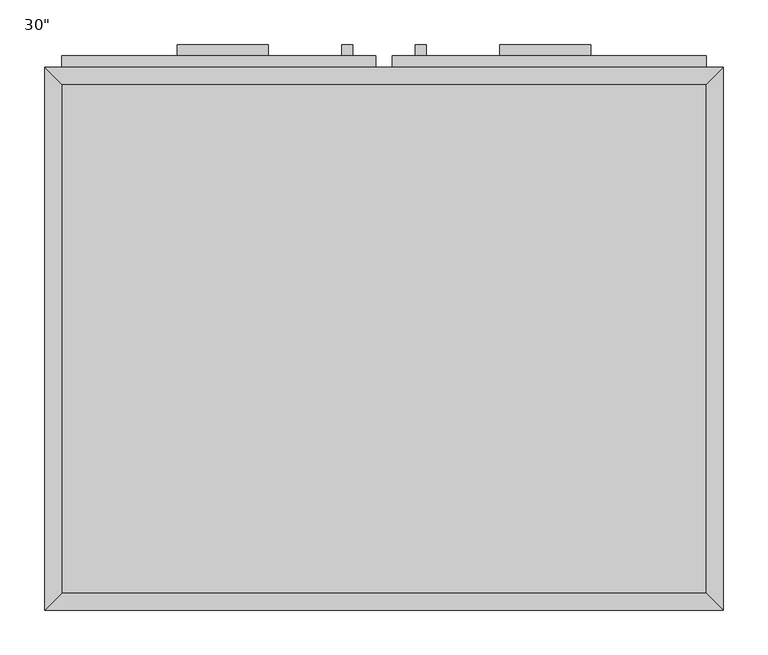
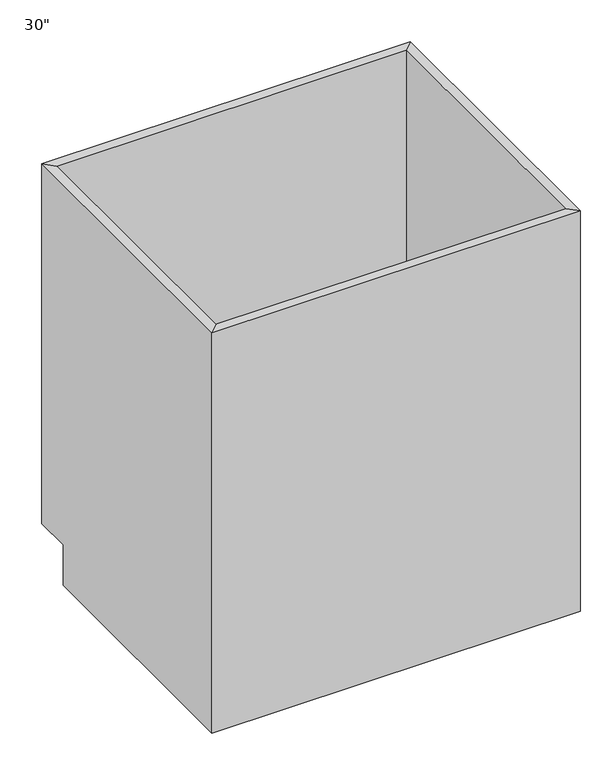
"""IFC4 building model written with IfcOpenShell, lengths in millimetres: furniture geometry."""

from ifc_helpers import new_model, si_unit, frame, origin, place, context, project, spatial, polyline, outline, extrude, faceted_brep, source, transform, mapped, element, save


def furniture_81c1c4d7(model_context):
    return source(origin(), model_context, "Body", "SolidModel", [
        faceted_brep([(380.6877049, 590.55, 876.3), (-343.2122951, 590.55, 876.3), (-343.2122951, 590.55, 88.9), (380.6877049, 590.55, 88.9), (399.7377049, 609.6, 876.3), (-362.2622951, 609.6, 876.3), (399.7377049, 609.6, 88.9), (-362.2622951, 609.6, 88.9), (-343.2122951, 19.05, 876.3), (-343.2122951, 19.05, 88.9), (-343.2122951, 533.4, 88.9), (-362.2622951, 0.0, 876.3), (-362.2622951, 533.4, 88.9), (-362.2622951, 533.4, 0.0), (-362.2622951, 0.0, 0.0), (380.6877049, 19.05, 876.3), (380.6877049, 19.05, 88.9), (399.7377049, 0.0, 876.3), (399.7377049, 0.0, 0.0), (380.6877049, 533.4, 88.9), (399.7377049, 533.4, 0.0), (399.7377049, 533.4, 88.9)], [[[0, 1, 2, 3]], [[0, 4, 5, 1]], [[4, 6, 7, 5]], [[2, 7, 6, 3]], [[1, 8, 9, 10, 2]], [[5, 11, 8, 1]], [[7, 12, 13, 14, 11, 5]], [[2, 10, 12, 7]], [[8, 15, 16, 9]], [[11, 17, 15, 8]], [[14, 18, 17, 11]], [[3, 19, 16, 15, 0]], [[0, 15, 17, 4]], [[4, 17, 18, 20, 21, 6]], [[6, 21, 19, 3]], [[10, 9, 16, 19]], [[18, 14, 13, 20]], [[13, 12, 10, 19, 21, 20]]]),
        extrude(outline(polyline([(-111.4372951, 635.0), (-111.4372951, 622.3), (-213.0372951, 622.3), (-213.0372951, 635.0), (-111.4372951, 635.0)])), frame((0.0, 0.0, 819.15), z_axis=(0.0, 0.0, 1.0), x_axis=(1.0, 0.0, 0.0)), (0.0, 0.0, 1.0), 12.7),
        extrude(outline(polyline([(250.5127049, 635.0), (250.5127049, 622.3), (148.9127049, 622.3), (148.9127049, 635.0), (250.5127049, 635.0)])), frame((0.0, 0.0, 819.15), z_axis=(0.0, 0.0, 1.0), x_axis=(1.0, 0.0, 0.0)), (0.0, 0.0, 1.0), 12.7),
        extrude(outline(polyline([(-16.1872951, 635.0), (-16.1872951, 622.3), (-28.8872951, 622.3), (-28.8872951, 635.0), (-16.1872951, 635.0)])), frame((0.0, 0.0, 596.9), z_axis=(0.0, 0.0, 1.0), x_axis=(1.0, 0.0, 0.0)), (0.0, 0.0, 1.0), 101.6),
        extrude(outline(polyline([(66.3627049, 635.0), (66.3627049, 622.3), (53.6627049, 622.3), (53.6627049, 635.0), (66.3627049, 635.0)])), frame((0.0, 0.0, 596.9), z_axis=(0.0, 0.0, 1.0), x_axis=(1.0, 0.0, 0.0)), (0.0, 0.0, 1.0), 101.6),
        extrude(outline(polyline([(380.6877049, 19.05), (-343.2122951, 19.05), (-343.2122951, 590.55), (380.6877049, 590.55), (380.6877049, 19.05)])), frame((0.0, 0.0, 88.9), z_axis=(0.0, 0.0, 1.0), x_axis=(1.0, 0.0, 0.0)), (0.0, 0.0, 1.0), 19.05),
        extrude(outline(polyline([(9.2127049, 622.3), (9.2127049, 609.6), (-343.2122951, 609.6), (-343.2122951, 622.3), (9.2127049, 622.3)])), frame((0.0, 0.0, 755.65), z_axis=(0.0, 0.0, 1.0), x_axis=(1.0, 0.0, 0.0)), (0.0, 0.0, 1.0), 101.6),
        extrude(outline(polyline([(380.6877049, 622.3), (380.6877049, 609.6), (28.2627049, 609.6), (28.2627049, 622.3), (380.6877049, 622.3)])), frame((0.0, 0.0, 755.65), z_axis=(0.0, 0.0, 1.0), x_axis=(1.0, 0.0, 0.0)), (0.0, 0.0, 1.0), 101.6),
        extrude(outline(polyline([(9.2127049, 622.3), (9.2127049, 609.6), (-343.2122951, 609.6), (-343.2122951, 622.3), (9.2127049, 622.3)])), frame((0.0, 0.0, 107.95), z_axis=(0.0, 0.0, 1.0), x_axis=(1.0, 0.0, 0.0)), (0.0, 0.0, 1.0), 628.65),
        extrude(outline(polyline([(380.6877049, 622.3), (380.6877049, 609.6), (28.2627049, 609.6), (28.2627049, 622.3), (380.6877049, 622.3)])), frame((0.0, 0.0, 107.95), z_axis=(0.0, 0.0, 1.0), x_axis=(1.0, 0.0, 0.0)), (0.0, 0.0, 1.0), 628.65),
    ])


if __name__ == "__main__":
    model = new_model("IFC4")
    model_context = context("Model", 3, world=origin())
    ifc_project = project(units=[si_unit("LENGTHUNIT", "METRE", prefix="MILLI")], contexts=[model_context])
    site = spatial("IfcSite", under=ifc_project)
    building = spatial("IfcBuilding", under=site)
    placement = place(None, origin())
    furniture_shape = furniture_81c1c4d7(model_context)
    element("IfcFurniture", 1, ObjectType="Base Cabinet-Double Door & 2 Drawer : 30\"", at=placement, inside=building, context=model_context, shape_type="MappedRepresentation", body=[
        mapped(furniture_shape, transform((0.0, 0.0, 0.0), x_axis=(1.0, 0.0, 0.0), y_axis=(0.0, 1.0, 0.0), z_axis=(0.0, 0.0, 1.0))),
    ])
    save(model, "model.ifc")
